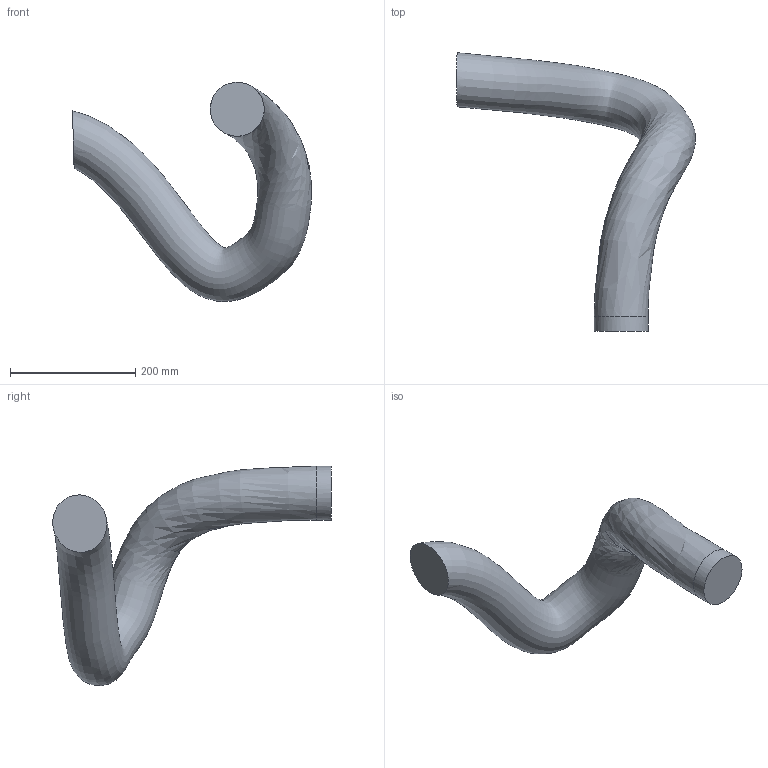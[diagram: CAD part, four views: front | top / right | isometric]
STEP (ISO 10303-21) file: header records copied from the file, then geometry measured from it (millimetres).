
FILE_DESCRIPTION (( 'STEP AP214' ), '1' );
FILE_NAME ('IRB7710_All-310_OC_00_LINK05_CABLE.step', '2026-01-28T09:15:44', ( '' ), ( '' ), 'SwSTEP 2.0', 'SolidWorks 2024', '' );
FILE_SCHEMA (( 'AUTOMOTIVE_DESIGN' ));
Length unit declared in the file: millimetre
Products named in the file (1): IRB7710_All-310_OC_00_LINK05_CABLE
Bounding box: 381.31 x 444.41 x 349.91 mm (x, y, z)
Volume: 5243258 mm3; surface area: 255821.1 mm2
Topology: 1 solids, 1 shells, 4 faces, 6 edges, 4 vertices
Faces by surface type: plane 2, bspline 1, cylinder 1
Full cylindrical faces by diameter (mm): 86 x1
Entity records: 56126 total; most frequent: CARTESIAN_POINT 56049, DIRECTION 10, EDGE_LOOP 6, ORIENTED_EDGE 6, FACE_OUTER_BOUND 6, AXIS2_PLACEMENT_3D 5, ADVANCED_FACE 4, EDGE_CURVE 3
